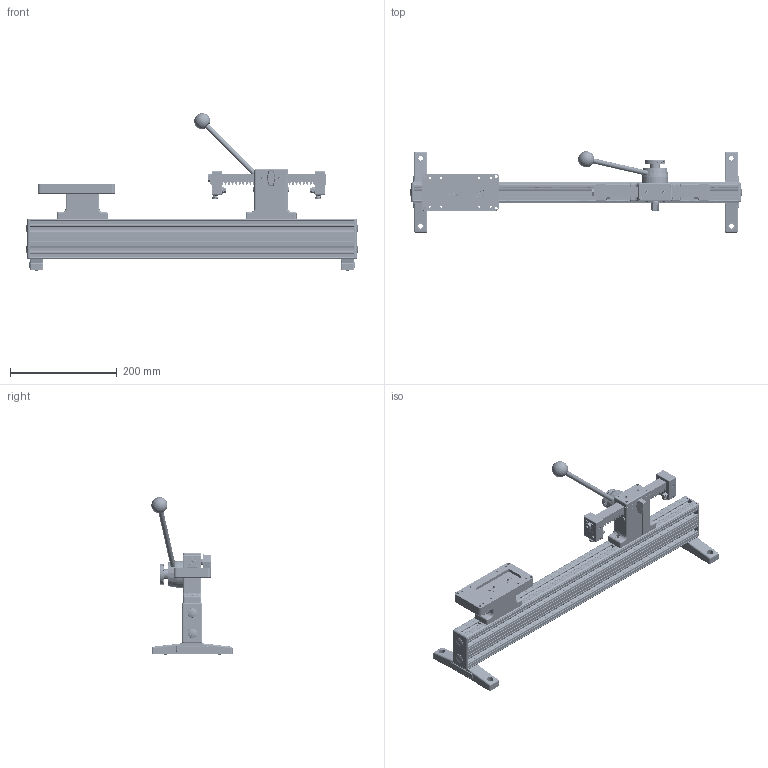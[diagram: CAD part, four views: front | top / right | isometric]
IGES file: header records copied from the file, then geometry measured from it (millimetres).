
Global section: file name: No Iges File Name specified; native system: Autodesk Inventor 2010; preprocessor: AutoDesk Inventor Iges Exporter R2010; author: mlampen; date: 20170621.142912; units: inch
Bounding box: 621.18 x 152.03 x 294.83 mm (x, y, z)
Volume: 2314564.6 mm3; surface area: 557411.2 mm2
Topology: 15 solids, 24 shells, 8241 faces, 22115 edges, 13873 vertices
Faces by surface type: plane 4135, cylinder 2687, revolution 859, cone 266, bspline 173, sphere 80, torus 41
Full cylindrical faces by diameter (mm): 2.474 x99, 3.505 x52, 3.795 x54, 4.7 x71, 4.826 x8, 6.104 x26, 6.35 x44, 7.938 x10
